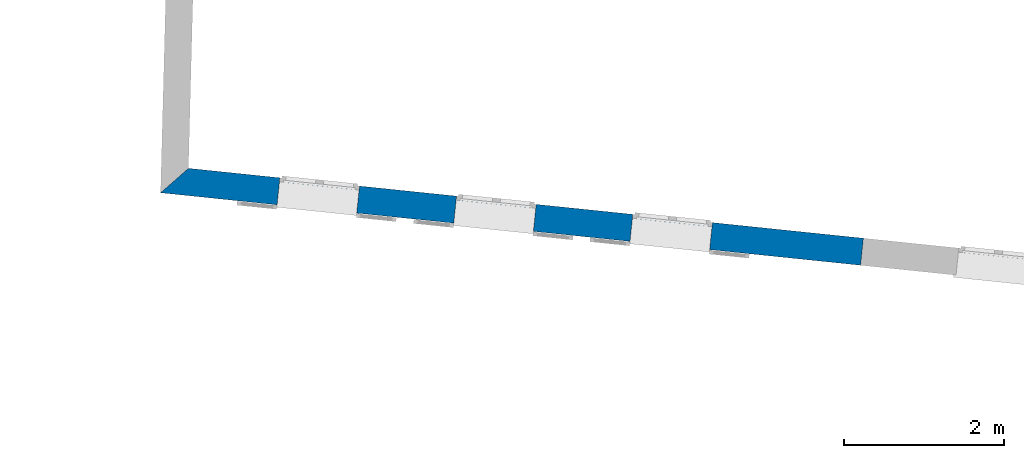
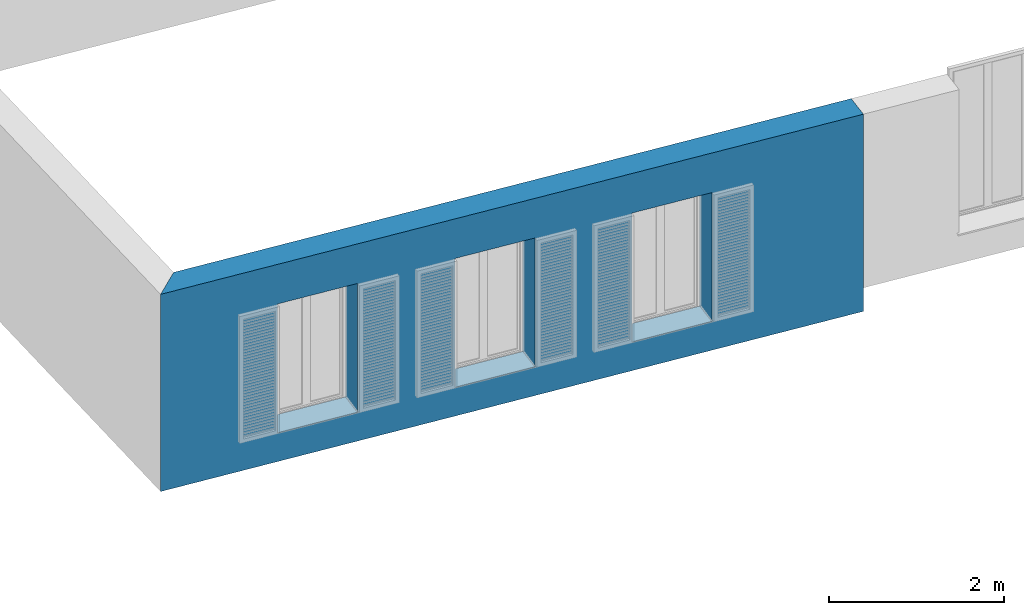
# One storey, part 71 of 164: 1 wall, 3 openings.
"""IFC2X3 building model written with IfcOpenShell, lengths in millimetres."""

from ifc_helpers import new_model, entity, si_unit, converted_unit, derived_unit, money_unit, direction, frame, origin_with_axes, origin_2d_with_axis, place, context, subcontext, project, spatial, polyline, rectangle, outline, extrude, material, layer, layer_set, layer_usage, type_object, element, save


model = new_model("IFC2X3")

# Units and contexts
model_context = context("Model", 3, precision=0.01, world=origin_with_axes(), true_north=direction((0.0, 1.0)))
body_context = subcontext(model_context, "Body", "Model", "MODEL_VIEW")
ifc_project = project(units=[si_unit("LENGTHUNIT", "METRE", prefix="MILLI"), si_unit("AREAUNIT", "SQUARE_METRE"), si_unit("VOLUMEUNIT", "CUBIC_METRE"), converted_unit("PLANEANGLEUNIT", "DEGREE", entity("IfcPlaneAngleMeasure", 0.0174532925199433), si_unit("PLANEANGLEUNIT", "RADIAN"), dimensions=[0, 0, 0, 0, 0, 0, 0]), money_unit("USD"), converted_unit("TIMEUNIT", "Year", entity("IfcTimeMeasure", 31557600.0), si_unit("TIMEUNIT", "SECOND"), dimensions=[0, 0, 1, 0, 0, 0, 0]), si_unit("MASSUNIT", "GRAM", prefix="KILO"), si_unit("THERMODYNAMICTEMPERATUREUNIT", "DEGREE_CELSIUS"), si_unit("LUMINOUSINTENSITYUNIT", "LUMEN"), si_unit("ENERGYUNIT", "JOULE", prefix="MEGA"), derived_unit("THERMALCONDUCTANCEUNIT", [(si_unit("POWERUNIT", "WATT"), 1), (si_unit("LENGTHUNIT", "METRE"), -1), (si_unit("THERMODYNAMICTEMPERATUREUNIT", "KELVIN"), -1)]), derived_unit("SPECIFICHEATCAPACITYUNIT", [(si_unit("ENERGYUNIT", "JOULE"), 1), (si_unit("MASSUNIT", "GRAM", prefix="KILO"), -1), (si_unit("THERMODYNAMICTEMPERATUREUNIT", "KELVIN"), -1)]), derived_unit("MASSDENSITYUNIT", [(si_unit("MASSUNIT", "GRAM", prefix="KILO"), 1), (si_unit("VOLUMEUNIT", "CUBIC_METRE"), -1)])], contexts=[model_context])

# Site, building, storey
site_placement = place(None, origin_with_axes())
site = spatial("IfcSite", under=ifc_project, at=site_placement, Name="Site", CompositionType="ELEMENT")
building_placement = place(site_placement, origin_with_axes())
building = spatial("IfcBuilding", under=site, at=building_placement, Name="Bâtiment", CompositionType="ELEMENT")
storey_placement = place(building_placement, frame((0.0, 0.0, 5750.0), z_axis=(0.0, 0.0, 1.0), x_axis=(1.0, 0.0, 0.0)))
storey = spatial("IfcBuildingStorey", under=building, at=storey_placement, Name="Etage1", CompositionType="ELEMENT", Elevation=5750.0)

# Wall, openings
ifc_material = material(Name="Empty Fill 272047960")
ifc_layer = layer(ifc_material, 339.9999999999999, ventilated="UNKNOWN")
ifc_layer_set = layer_set([ifc_layer], Name="Empty Fill 272047960 340")
ifc_layer_usage = layer_usage(ifc_layer_set, "AXIS2", "NEGATIVE", 0.0)
wall_type = type_object("IfcWallType", Name="Empty Fill 272047960 340", PredefinedType="NOTDEFINED")
wall_placement = place(storey_placement, frame((2245882.942695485, -591753.5900529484, 250.0), z_axis=(0.0, 0.0, 1.0), x_axis=(-0.994678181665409, 0.1030306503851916, 0.0)))
wall = element("IfcWallStandardCase", 1, at=wall_placement, inside=storey, type_object=wall_type, material=ifc_layer_usage, Name="Mur-143", context=body_context, shape_type="SweptSolid", body=[
    extrude(outline(polyline([(0.0, -339.9999999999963), (8480.98711477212, -339.9999999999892), (8795.793367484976, 0.0), (-1.13686837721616e-10, 0.0), (0.0, -339.9999999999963)])), origin_with_axes(), (0.0, 0.0, 1.0), 2750.0),
])
opening_1_placement = place(wall_placement, frame((6831.799921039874, 0.0, 398.1636091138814), z_axis=(0.0, 0.0, 1.0), x_axis=(1.0, 0.0, 0.0)))
element("IfcOpeningElement", 2, at=opening_1_placement, cuts=wall, Name="Fen-207", context=body_context, shape_type="SweptSolid", body=[
    extrude(rectangle(XDim=1000.0, YDim=1800.000000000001, at=origin_2d_with_axis()), frame((-1.13686837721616e-10, -290.0000000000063, 900.0000000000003), z_axis=(0.0, -1.0, 0.0), x_axis=(-1.0, 0.0, 0.0)), (0.0, 0.0, -1.0), 629.9999999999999),
    extrude(rectangle(XDim=1000.0, YDim=1800.000000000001, at=origin_2d_with_axis()), frame((-1.13686837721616e-10, -289.9999999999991, 900.0000000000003), z_axis=(0.0, 1.0, 0.0), x_axis=(-1.0, 0.0, 0.0)), (0.0, 0.0, -1.0), 389.9999999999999),
])
opening_2_placement = place(wall_placement, frame((4611.948435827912, 0.0, 398.1636091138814), z_axis=(0.0, 0.0, 1.0), x_axis=(1.0, 0.0, 0.0)))
element("IfcOpeningElement", 3, at=opening_2_placement, cuts=wall, Name="Fen-209", context=body_context, shape_type="SweptSolid", body=[
    extrude(rectangle(XDim=1000.0, YDim=1800.000000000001, at=origin_2d_with_axis()), frame((0.0, -289.9999999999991, 900.0000000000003), z_axis=(0.0, -1.0, 0.0), x_axis=(-1.0, 0.0, 0.0)), (0.0, 0.0, -1.0), 629.9999999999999),
    extrude(rectangle(XDim=1000.0, YDim=1800.000000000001, at=origin_2d_with_axis()), frame((0.0, -289.999999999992, 900.0000000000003), z_axis=(0.0, 1.0, 0.0), x_axis=(-1.0, 0.0, 0.0)), (0.0, 0.0, -1.0), 389.9999999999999),
])
opening_3_placement = place(wall_placement, frame((2397.300948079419, 0.0, 398.1636091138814), z_axis=(0.0, 0.0, 1.0), x_axis=(1.0, 0.0, 0.0)))
element("IfcOpeningElement", 4, at=opening_3_placement, cuts=wall, Name="Fen-208", context=body_context, shape_type="SweptSolid", body=[
    extrude(rectangle(XDim=1000.0, YDim=1800.000000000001, at=origin_2d_with_axis()), frame((0.0, -290.0000000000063, 900.0000000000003), z_axis=(0.0, 1.0, 0.0), x_axis=(1.0, 0.0, 0.0)), (0.0, 0.0, 1.0), 629.9999999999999),
    extrude(rectangle(XDim=1000.000000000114, YDim=1800.000000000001, at=origin_2d_with_axis()), frame((1.13686837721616e-10, -290.0000000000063, 900.0000000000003), z_axis=(0.0, -1.0, 0.0), x_axis=(1.0, 0.0, 0.0)), (0.0, 0.0, 1.0), 389.9999999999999),
])

save(model, "model.ifc")
